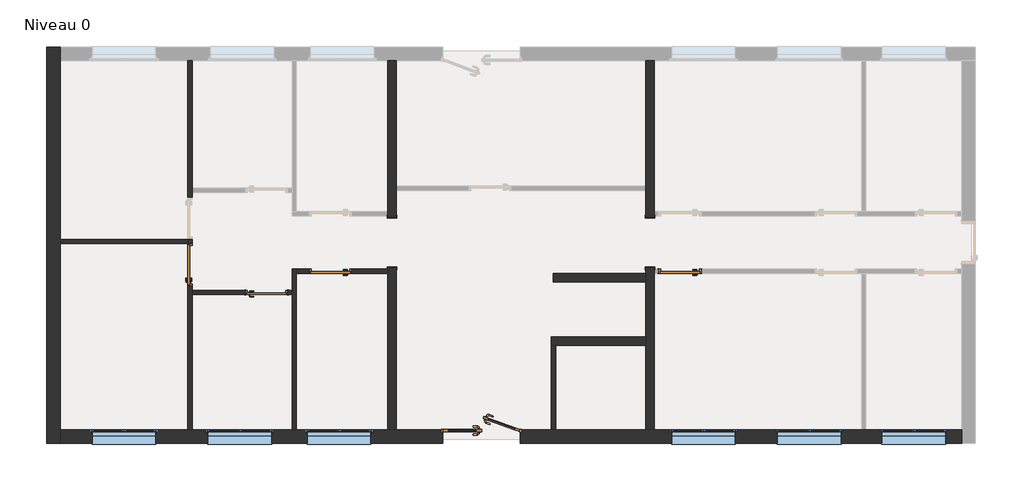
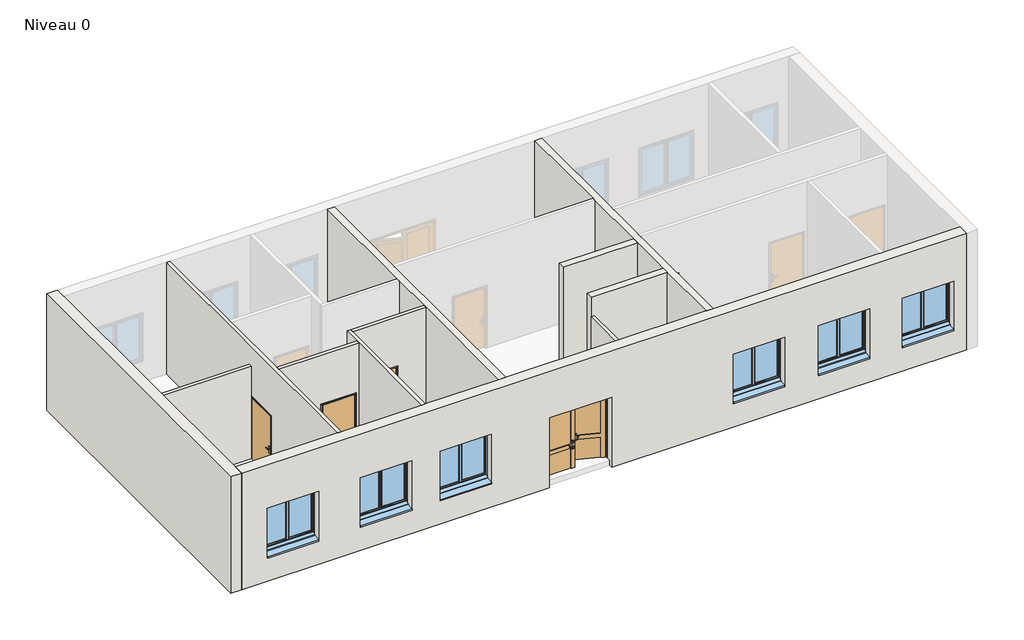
# One storey, part 1 of 2: 12 walls, 7 doors, 6 windows.
"""IFC4 building model written with IfcOpenShell, lengths in millimetres."""

from ifc_helpers import new_model, si_unit, frame, origin, origin_with_axes, place, context, project, spatial, polyline, outline, extrude, faceted_brep, transform, mapped, element, save
from components import ext_double_4d125d60, int_simple_pp_0_93m_x_2_04m_4f2bf630, int_simple_pp_0_93m_x_2_04m_68d1b237, ouverture_en_rectangle_ouverture_en_rectangle_f633d446, window_4dd6e4df

model = new_model("IFC4")

# Units and contexts
model_context = context("Model", 3, world=origin())
ifc_project = project(units=[si_unit("LENGTHUNIT", "METRE", prefix="MILLI")], contexts=[model_context])

# Site, building, storey
site = spatial("IfcSite", under=ifc_project)
building = spatial("IfcBuilding", under=site)
storey = spatial("IfcBuildingStorey", under=building, Name="Niveau 0", Elevation=0.0)

# Doors
placement = place(None, origin())
ext_double_shape = ext_double_4d125d60(model_context)
element("IfcDoor", 1, ObjectType="Ext. Double : Vitrée avec traverse - 1.80 m x 2.15 m", at=placement, inside=storey, context=model_context, shape_type="MappedRepresentation", body=[
    mapped(ext_double_shape, transform((-4128.240701, -4965.3060551, 0.0), x_axis=(-1.0, 0.0, 0.0), y_axis=(0.0, -1.0, 0.0), z_axis=(0.0, 0.0, 1.0))),
])
int_simple_pp_0_93m_x_2_04m_shape = int_simple_pp_0_93m_x_2_04m_4f2bf630(model_context)
element("IfcDoor", 2, ObjectType="Int. Simple : PP (0.93m x 2.04m)", at=placement, inside=storey, context=model_context, shape_type="MappedRepresentation", body=[
    mapped(int_simple_pp_0_93m_x_2_04m_shape, transform((-9133.240701, -1575.3060551, 0.0), x_axis=(1.0, 0.0, 0.0), y_axis=(0.0, 1.0, 0.0), z_axis=(0.0, 0.0, 1.0))),
])
int_simple_pp_0_93m_x_2_04m_2_shape = int_simple_pp_0_93m_x_2_04m_68d1b237(model_context)
element("IfcDoor", 3, ObjectType="Int. Simple : PP (0.93m x 2.04m)", at=placement, inside=storey, context=model_context, shape_type="MappedRepresentation", body=[
    mapped(int_simple_pp_0_93m_x_2_04m_2_shape, transform((506.759299, -1075.3060551, 0.0), x_axis=(-1.0, 0.0, 0.0), y_axis=(0.0, -1.0, 0.0), z_axis=(0.0, 0.0, 1.0))),
])
element("IfcDoor", 4, ObjectType="Int. Simple : PP (0.93m x 2.04m)", at=placement, inside=storey, context=model_context, shape_type="MappedRepresentation", body=[
    mapped(int_simple_pp_0_93m_x_2_04m_2_shape, transform((-7703.240701, -1075.3060551, 0.0), x_axis=(-1.0, 0.0, 0.0), y_axis=(0.0, -1.0, 0.0), z_axis=(0.0, 0.0, 1.0))),
])
element("IfcDoor", 5, ObjectType="Int. Simple : PP (0.93m x 2.04m)", at=placement, inside=storey, context=model_context, shape_type="MappedRepresentation", body=[
    mapped(int_simple_pp_0_93m_x_2_04m_2_shape, transform((-10968.240701, -890.3060551, 0.0), x_axis=(0.0, 1.0, 0.0), y_axis=(-1.0, 0.0, 0.0), z_axis=(0.0, 0.0, 1.0))),
])
ouverture_en_rectangle_ouverture_en_rectangle_shape = ouverture_en_rectangle_ouverture_en_rectangle_f633d446(model_context)
element("IfcDoor", 6, ObjectType="Ouverture en rectangle : Ouverture en rectangle", at=placement, inside=storey, context=model_context, shape_type="MappedRepresentation", body=[
    mapped(ouverture_en_rectangle_ouverture_en_rectangle_shape, transform((-6218.240701, -400.3060551, 0.0), x_axis=(0.0, -1.0, 0.0), y_axis=(1.0, 0.0, 0.0), z_axis=(0.0, 0.0, 1.0))),
])
element("IfcDoor", 7, ObjectType="Ouverture en rectangle : Ouverture en rectangle", at=placement, inside=storey, context=model_context, shape_type="MappedRepresentation", body=[
    mapped(ouverture_en_rectangle_ouverture_en_rectangle_shape, transform((-158.240701, -400.3060551, 0.0), x_axis=(0.0, -1.0, 0.0), y_axis=(1.0, 0.0, 0.0), z_axis=(0.0, 0.0, 1.0))),
])

# Walls
element("IfcWall", 8, ObjectType="Int. plâtre 100 mm", at=placement, inside=storey, context=model_context, shape_type="Brep", body=[
    faceted_brep([(-10918.240701, 3874.6939449, 3600.0), (-10918.240701, 874.6939449, 3600.0), (-10918.240701, 774.6939449, 3600.0), (-10918.240701, -1525.3060551, 3600.0), (-10918.240701, -1625.3060551, 3600.0), (-10918.240701, -4805.3060551, 3600.0), (-10918.240701, -4805.3060551, 0.0), (-10918.240701, -1625.3060551, 0.0), (-10918.240701, -1525.3060551, 0.0), (-10918.240701, -1425.3060551, 0.0), (-10918.240701, -1425.3060551, 2075.0), (-10918.240701, -425.3060551, 2075.0), (-10918.240701, -425.3060551, 0.0), (-10918.240701, -325.3060551, 0.0), (-10918.240701, -325.3060551, 2075.0), (-10918.240701, 674.6939449, 2075.0), (-10918.240701, 674.6939449, 0.0), (-10918.240701, 774.6939449, 0.0), (-10918.240701, 874.6939449, 0.0), (-10918.240701, 3874.6939449, 0.0), (-11018.240701, -4805.3060551, 3600.0), (-11018.240701, 3874.6939449, 3600.0), (-11018.240701, 3874.6939449, 0.0), (-11018.240701, 674.6939449, 0.0), (-11018.240701, 674.6939449, 2075.0), (-11018.240701, -325.3060551, 2075.0), (-11018.240701, -325.3060551, 0.0), (-11018.240701, -425.3060551, 0.0), (-11018.240701, -425.3060551, 2075.0), (-11018.240701, -1425.3060551, 2075.0), (-11018.240701, -1425.3060551, 0.0), (-11018.240701, -4805.3060551, 0.0)], [[[0, 1, 2, 3, 4, 5, 6, 7, 8, 9, 10, 11, 12, 13, 14, 15, 16, 17, 18, 19]], [[20, 21, 22, 23, 24, 25, 26, 27, 28, 29, 30, 31]], [[6, 31, 30, 9, 8, 7]], [[22, 19, 18, 17, 16, 23]], [[12, 27, 26, 13]], [[5, 4, 3, 2, 1, 0, 21, 20]], [[0, 19, 22, 21]], [[6, 5, 20, 31]], [[11, 28, 27, 12]], [[28, 11, 10, 29]], [[29, 10, 9, 30]], [[25, 14, 13, 26]], [[14, 25, 24, 15]], [[15, 24, 23, 16]]]),
])
element("IfcWall", 9, ObjectType="Int. plâtre 100 mm", at=placement, inside=storey, context=model_context, shape_type="Brep", body=[
    faceted_brep([(-8468.240701, -4805.3060551, 0.0), (-8468.240701, -1125.3060551, 0.0), (-8468.240701, -1025.3060551, 0.0), (-8468.240701, -1025.3060551, 3600.0), (-8468.240701, -1125.3060551, 3600.0), (-8468.240701, -4805.3060551, 3600.0), (-8568.240701, -4805.3060551, 0.0), (-8568.240701, -4805.3060551, 3600.0), (-8568.240701, -1625.3060551, 3600.0), (-8568.240701, -1525.3060551, 3600.0), (-8568.240701, -1025.3060551, 3600.0), (-8568.240701, -1025.3060551, 0.0), (-8568.240701, -1525.3060551, 0.0), (-8568.240701, -1625.3060551, 0.0)], [[[0, 1, 2, 3, 4, 5]], [[6, 7, 8, 9, 10, 11, 12, 13]], [[2, 1, 0, 6, 13, 12, 11]], [[5, 4, 3, 10, 9, 8, 7]], [[0, 5, 7, 6]], [[3, 2, 11, 10]]]),
])
element("IfcWall", 10, ObjectType="Int. plâtre 100 mm", at=placement, inside=storey, context=model_context, shape_type="SweptSolid", body=[
    extrude(outline(polyline([(3600.0, -6318.240701), (3600.0, -8468.240701), (0.0, -8468.240701), (0.0, -8168.240701), (2075.0, -8168.240701), (2075.0, -7168.240701), (0.0, -7168.240701), (0.0, -6318.240701), (3600.0, -6318.240701)])), frame((0.0, -1125.3060551, 0.0), z_axis=(0.0, 1.0, 0.0), x_axis=(0.0, 0.0, 1.0)), (0.0, 0.0, 1.0), 100.0),
])
element("IfcWall", 11, ObjectType="Int. plâtre 100 mm", at=placement, inside=storey, context=model_context, shape_type="SweptSolid", body=[
    extrude(outline(polyline([(3600.0, -8568.240701), (3600.0, -10918.240701), (0.0, -10918.240701), (0.0, -9668.240701), (2075.0, -9668.240701), (2075.0, -8668.240701), (0.0, -8668.240701), (0.0, -8568.240701), (3600.0, -8568.240701)])), frame((0.0, -1625.3060551, 0.0), z_axis=(0.0, 1.0, 0.0), x_axis=(0.0, 0.0, 1.0)), (0.0, 0.0, 1.0), 100.0),
])
element("IfcWall", 12, ObjectType="Int. plâtre 100 mm", at=placement, inside=storey, context=model_context, shape_type="Brep", body=[
    faceted_brep([(-11018.240701, -325.3060551, 0.0), (-14018.240701, -325.3060551, 0.0), (-14018.240701, -325.3060551, 3000.0), (-11018.240701, -325.3060551, 3000.0), (-11018.240701, -325.3060551, 2075.0), (-11018.240701, -425.3060551, 0.0), (-11018.240701, -425.3060551, 2075.0), (-11018.240701, -425.3060551, 3000.0), (-14018.240701, -425.3060551, 3000.0), (-14018.240701, -425.3060551, 0.0)], [[[0, 1, 2, 3, 4]], [[5, 6, 7, 8, 9]], [[1, 0, 5, 9]], [[3, 2, 8, 7]], [[2, 1, 9, 8]], [[0, 4, 3, 7, 6, 5]]]),
])
element("IfcWall", 13, ObjectType="Int. plâtre 100 mm", at=placement, inside=storey, context=model_context, shape_type="SweptSolid", body=[
    extrude(outline(polyline([(-2480.4682755, -4805.3060551), (-2480.4682755, -2825.3060551), (-2380.4682755, -2825.3060551), (-2380.4682755, -4805.3060551), (-2480.4682755, -4805.3060551)])), origin_with_axes(), (0.0, 0.0, 1.0), 3000.0),
])
element("IfcWall", 14, ObjectType="Ext. Voile BA 20", at=placement, inside=storey, context=model_context, shape_type="Brep", body=[
    faceted_brep([(-6318.240701, -4805.3060551, 3600.0), (-6318.240701, -1125.3060551, 3600.0), (-6318.240701, -1025.3060551, 3600.0), (-6318.240701, 224.6939449, 3600.0), (-6318.240701, 324.6939449, 3600.0), (-6318.240701, 3874.6939449, 3600.0), (-6318.240701, 3874.6939449, 0.0), (-6318.240701, 324.6939449, 0.0), (-6318.240701, 224.6939449, 0.0), (-6318.240701, 199.6939449, 0.0), (-6318.240701, 199.6939449, 2100.0), (-6318.240701, -1000.3060551, 2100.0), (-6318.240701, -1000.3060551, 0.0), (-6318.240701, -1025.3060551, 0.0), (-6318.240701, -1125.3060551, 0.0), (-6318.240701, -4805.3060551, 0.0), (-6118.240701, 3874.6939449, 3600.0), (-6118.240701, 924.6939449, 3600.0), (-6118.240701, 824.6939449, 3600.0), (-6118.240701, -4805.3060551, 3600.0), (-6118.240701, -4805.3060551, 0.0), (-6118.240701, -1000.3060551, 0.0), (-6118.240701, -1000.3060551, 2100.0), (-6118.240701, 199.6939449, 2100.0), (-6118.240701, 199.6939449, 0.0), (-6118.240701, 824.6939449, 0.0), (-6118.240701, 924.6939449, 0.0), (-6118.240701, 3874.6939449, 0.0)], [[[0, 1, 2, 3, 4, 5, 6, 7, 8, 9, 10, 11, 12, 13, 14, 15]], [[16, 17, 18, 19, 20, 21, 22, 23, 24, 25, 26, 27]], [[6, 27, 26, 25, 24, 9, 8, 7]], [[20, 15, 14, 13, 12, 21]], [[5, 4, 3, 2, 1, 0, 19, 18, 17, 16]], [[6, 5, 16, 27]], [[0, 15, 20, 19]], [[11, 22, 21, 12]], [[22, 11, 10, 23]], [[23, 10, 9, 24]]]),
])
element("IfcWall", 15, ObjectType="Ext. Voile BA 20", at=placement, inside=storey, context=model_context, shape_type="Brep", body=[
    faceted_brep([(-258.240701, -4805.3060551, 3600.0), (-258.240701, -2825.3060551, 3600.0), (-258.240701, -2625.3060551, 3600.0), (-258.240701, -1329.6604406, 3600.0), (-258.240701, -1129.6604406, 3600.0), (-258.240701, 824.6939449, 3600.0), (-258.240701, 924.6939449, 3600.0), (-258.240701, 3874.6939449, 3600.0), (-258.240701, 3874.6939449, 0.0), (-258.240701, 924.6939449, 0.0), (-258.240701, 824.6939449, 0.0), (-258.240701, 199.6939449, 0.0), (-258.240701, 199.6939449, 2100.0), (-258.240701, -1000.3060551, 2100.0), (-258.240701, -1000.3060551, 0.0), (-258.240701, -1129.6604406, 0.0), (-258.240701, -1329.6604406, 0.0), (-258.240701, -2625.3060551, 0.0), (-258.240701, -2825.3060551, 0.0), (-258.240701, -4805.3060551, 0.0), (-58.240701, 3874.6939449, 3600.0), (-58.240701, 324.6939449, 3600.0), (-58.240701, 224.6939449, 3600.0), (-58.240701, -1025.3060551, 3600.0), (-58.240701, -1125.3060551, 3600.0), (-58.240701, -4805.3060551, 3600.0), (-58.240701, -4805.3060551, 0.0), (-58.240701, -1000.3060551, 0.0), (-58.240701, -1000.3060551, 2100.0), (-58.240701, 199.6939449, 2100.0), (-58.240701, 199.6939449, 0.0), (-58.240701, 224.6939449, 0.0), (-58.240701, 324.6939449, 0.0), (-58.240701, 3874.6939449, 0.0)], [[[0, 1, 2, 3, 4, 5, 6, 7, 8, 9, 10, 11, 12, 13, 14, 15, 16, 17, 18, 19]], [[20, 21, 22, 23, 24, 25, 26, 27, 28, 29, 30, 31, 32, 33]], [[8, 33, 32, 31, 30, 11, 10, 9]], [[26, 19, 18, 17, 16, 15, 14, 27]], [[7, 6, 5, 4, 3, 2, 1, 0, 25, 24, 23, 22, 21, 20]], [[8, 7, 20, 33]], [[0, 19, 26, 25]], [[13, 28, 27, 14]], [[28, 13, 12, 29]], [[29, 12, 11, 30]]]),
])
element("IfcWall", 16, ObjectType="Ext. Voile BA 20", at=placement, inside=storey, context=model_context, shape_type="SweptSolid", body=[
    extrude(outline(polyline([(-258.240701, -1329.6604406), (-2430.4682755, -1329.6604406), (-2430.4682755, -1129.6604406), (-258.240701, -1129.6604406), (-258.240701, -1329.6604406)])), origin_with_axes(), (0.0, 0.0, 1.0), 3600.0),
])
element("IfcWall", 17, ObjectType="Ext. Voile BA 20", at=placement, inside=storey, context=model_context, shape_type="Brep", body=[
    faceted_brep([(-2480.4682755, -2825.3060551, 0.0), (-2380.4682755, -2825.3060551, 0.0), (-258.240701, -2825.3060551, 0.0), (-258.240701, -2825.3060551, 3600.0), (-2480.4682755, -2825.3060551, 3600.0), (-2480.4682755, -2825.3060551, 3000.0), (-2480.4682755, -2625.3060551, 0.0), (-2480.4682755, -2625.3060551, 3600.0), (-258.240701, -2625.3060551, 3600.0), (-258.240701, -2625.3060551, 0.0)], [[[0, 1, 2, 3, 4, 5]], [[6, 7, 8, 9]], [[2, 1, 0, 6, 9]], [[4, 3, 8, 7]], [[3, 2, 9, 8]], [[0, 5, 4, 7, 6]]]),
])
element("IfcWall", 18, ObjectType="Ext. Voile BA 20 + Isolant 10", at=placement, inside=storey, context=model_context, shape_type="Brep", body=[
    faceted_brep([(-14018.240701, -5125.3060551, 0.0), (-14018.240701, -4805.3060551, 0.0), (-14018.240701, -425.3060551, 0.0), (-14018.240701, -325.3060551, 0.0), (-14018.240701, 3874.6939449, 0.0), (-14018.240701, 4194.6939449, 0.0), (-14018.240701, 4194.6939449, 3600.0), (-14018.240701, 3874.6939449, 3600.0), (-14018.240701, -4805.3060551, 3600.0), (-14018.240701, -5125.3060551, 3600.0), (-14338.240701, -5125.3060551, 0.0), (-14338.240701, -5125.3060551, 3600.0), (-14338.240701, 4194.6939449, 3600.0), (-14338.240701, 4194.6939449, 0.0)], [[[0, 1, 2, 3, 4, 5, 6, 7, 8, 9]], [[10, 11, 12, 13]], [[5, 4, 3, 2, 1, 0, 10, 13]], [[9, 8, 7, 6, 12, 11]], [[6, 5, 13, 12]], [[0, 9, 11, 10]]]),
])
element("IfcWall", 19, ObjectType="Ext. Voile BA 20 + Isolant 10", at=placement, inside=storey, context=model_context, shape_type="Brep", body=[
    faceted_brep([(-14018.240701, -4805.3060551, 3600.0), (-11018.240701, -4805.3060551, 3600.0), (-10918.240701, -4805.3060551, 3600.0), (-8568.240701, -4805.3060551, 3600.0), (-8468.240701, -4805.3060551, 3600.0), (-6318.240701, -4805.3060551, 3600.0), (-6118.240701, -4805.3060551, 3600.0), (-258.240701, -4805.3060551, 3600.0), (-58.240701, -4805.3060551, 3600.0), (4811.759299, -4805.3060551, 3600.0), (4911.759299, -4805.3060551, 3600.0), (7161.759299, -4805.3060551, 3600.0), (7161.759299, -4805.3060551, 0.0), (4911.759299, -4805.3060551, 0.0), (4811.759299, -4805.3060551, 0.0), (-58.240701, -4805.3060551, 0.0), (-258.240701, -4805.3060551, 0.0), (-2380.4682755, -4805.3060551, 0.0), (-2480.4682755, -4805.3060551, 0.0), (-3168.240701, -4805.3060551, 0.0), (-3168.240701, -4805.3060551, 2200.0), (-5068.240701, -4805.3060551, 2200.0), (-5068.240701, -4805.3060551, 0.0), (-6118.240701, -4805.3060551, 0.0), (-6318.240701, -4805.3060551, 0.0), (-8468.240701, -4805.3060551, 0.0), (-8568.240701, -4805.3060551, 0.0), (-10918.240701, -4805.3060551, 0.0), (-11018.240701, -4805.3060551, 0.0), (-14018.240701, -4805.3060551, 0.0), (-10598.240701, -4805.3060551, 800.0), (-8998.240701, -4805.3060551, 800.0), (-8998.240701, -4805.3060551, 2300.0), (-10598.240701, -4805.3060551, 2300.0), (-8268.240701, -4805.3060551, 800.0), (-6668.240701, -4805.3060551, 800.0), (-6668.240701, -4805.3060551, 2300.0), (-8268.240701, -4805.3060551, 2300.0), (-13318.240701, -4805.3060551, 800.0), (-11718.240701, -4805.3060551, 800.0), (-11718.240701, -4805.3060551, 2300.0), (-13318.240701, -4805.3060551, 2300.0), (5236.759299, -4805.3060551, 800.0), (6836.759299, -4805.3060551, 800.0), (6836.759299, -4805.3060551, 2300.0), (5236.759299, -4805.3060551, 2300.0), (2781.759299, -4805.3060551, 800.0), (4381.759299, -4805.3060551, 800.0), (4381.759299, -4805.3060551, 2300.0), (2781.759299, -4805.3060551, 2300.0), (296.759299, -4805.3060551, 800.0), (1896.759299, -4805.3060551, 800.0), (1896.759299, -4805.3060551, 2300.0), (296.759299, -4805.3060551, 2300.0), (7161.759299, -5125.3060551, 3600.0), (-14018.240701, -5125.3060551, 3600.0), (-14018.240701, -5125.3060551, 0.0), (-5028.240701, -5125.3060551, 0.0), (-5028.240701, -5125.3060551, 2160.0), (-3208.240701, -5125.3060551, 2160.0), (-3208.240701, -5125.3060551, 0.0), (7161.759299, -5125.3060551, 0.0), (-9048.240701, -5125.3060551, 2250.0), (-9048.240701, -5125.3060551, 720.0), (-10548.240701, -5125.3060551, 720.0), (-10548.240701, -5125.3060551, 2250.0), (-6718.240701, -5125.3060551, 2250.0), (-6718.240701, -5125.3060551, 720.0), (-8218.240701, -5125.3060551, 720.0), (-8218.240701, -5125.3060551, 2250.0), (-11768.240701, -5125.3060551, 2250.0), (-11768.240701, -5125.3060551, 720.0), (-13268.240701, -5125.3060551, 720.0), (-13268.240701, -5125.3060551, 2250.0), (6786.759299, -5125.3060551, 2250.0), (6786.759299, -5125.3060551, 720.0), (5286.759299, -5125.3060551, 720.0), (5286.759299, -5125.3060551, 2250.0), (4331.759299, -5125.3060551, 2250.0), (4331.759299, -5125.3060551, 720.0), (2831.759299, -5125.3060551, 720.0), (2831.759299, -5125.3060551, 2250.0), (1846.759299, -5125.3060551, 2250.0), (1846.759299, -5125.3060551, 720.0), (346.759299, -5125.3060551, 720.0), (346.759299, -5125.3060551, 2250.0), (-3208.240701, -4905.3060551, 0.0), (-3198.240701, -4905.3060551, 0.0), (-3198.240701, -4855.3060551, 0.0), (-3168.240701, -4855.3060551, 0.0), (-5068.240701, -4855.3060551, 0.0), (-5038.240701, -4855.3060551, 0.0), (-5038.240701, -4905.3060551, 0.0), (-5028.240701, -4905.3060551, 0.0), (-5028.240701, -4905.3060551, 2160.0), (-3208.240701, -4905.3060551, 2160.0), (-3198.240701, -4855.3060551, 2170.0), (-5038.240701, -4855.3060551, 2170.0), (-5068.240701, -4855.3060551, 2200.0), (-3168.240701, -4855.3060551, 2200.0), (-3198.240701, -4905.3060551, 2170.0), (-5038.240701, -4905.3060551, 2170.0), (-9048.240701, -4885.3060551, 800.0), (-9048.240701, -4885.3060551, 720.0), (-9048.240701, -4905.3060551, 2250.0), (-9048.240701, -4905.3060551, 800.0), (-10548.240701, -4885.3060551, 720.0), (-10548.240701, -4885.3060551, 800.0), (-10548.240701, -4905.3060551, 800.0), (-10548.240701, -4905.3060551, 2250.0), (-9038.240701, -4905.3060551, 800.0), (-9038.240701, -4855.3060551, 800.0), (-8998.240701, -4855.3060551, 800.0), (-10598.240701, -4855.3060551, 800.0), (-10558.240701, -4855.3060551, 800.0), (-10558.240701, -4905.3060551, 800.0), (-8998.240701, -4855.3060551, 2300.0), (-9038.240701, -4855.3060551, 2260.0), (-10558.240701, -4855.3060551, 2260.0), (-10598.240701, -4855.3060551, 2300.0), (-9038.240701, -4905.3060551, 2260.0), (-10558.240701, -4905.3060551, 2260.0), (-6718.240701, -4885.3060551, 800.0), (-6718.240701, -4885.3060551, 720.0), (-6718.240701, -4905.3060551, 2250.0), (-6718.240701, -4905.3060551, 800.0), (-8218.240701, -4885.3060551, 720.0), (-8218.240701, -4885.3060551, 800.0), (-8218.240701, -4905.3060551, 800.0), (-8218.240701, -4905.3060551, 2250.0), (-6708.240701, -4905.3060551, 800.0), (-6708.240701, -4855.3060551, 800.0), (-6668.240701, -4855.3060551, 800.0), (-8268.240701, -4855.3060551, 800.0), (-8228.240701, -4855.3060551, 800.0), (-8228.240701, -4905.3060551, 800.0), (-6668.240701, -4855.3060551, 2300.0), (-6708.240701, -4855.3060551, 2260.0), (-8228.240701, -4855.3060551, 2260.0), (-8268.240701, -4855.3060551, 2300.0), (-6708.240701, -4905.3060551, 2260.0), (-8228.240701, -4905.3060551, 2260.0), (-11768.240701, -4885.3060551, 800.0), (-11768.240701, -4885.3060551, 720.0), (-11768.240701, -4905.3060551, 2250.0), (-11768.240701, -4905.3060551, 800.0), (-13268.240701, -4885.3060551, 720.0), (-13268.240701, -4885.3060551, 800.0), (-13268.240701, -4905.3060551, 800.0), (-13268.240701, -4905.3060551, 2250.0), (-11758.240701, -4905.3060551, 800.0), (-11758.240701, -4855.3060551, 800.0), (-11718.240701, -4855.3060551, 800.0), (-13318.240701, -4855.3060551, 800.0), (-13278.240701, -4855.3060551, 800.0), (-13278.240701, -4905.3060551, 800.0), (-11718.240701, -4855.3060551, 2300.0), (-11758.240701, -4855.3060551, 2260.0), (-13278.240701, -4855.3060551, 2260.0), (-13318.240701, -4855.3060551, 2300.0), (-11758.240701, -4905.3060551, 2260.0), (-13278.240701, -4905.3060551, 2260.0), (6786.759299, -4885.3060551, 800.0), (6786.759299, -4885.3060551, 720.0), (6786.759299, -4905.3060551, 2250.0), (6786.759299, -4905.3060551, 800.0), (5286.759299, -4885.3060551, 720.0), (5286.759299, -4885.3060551, 800.0), (5286.759299, -4905.3060551, 800.0), (5286.759299, -4905.3060551, 2250.0), (6796.759299, -4905.3060551, 800.0), (6796.759299, -4855.3060551, 800.0), (6836.759299, -4855.3060551, 800.0), (5236.759299, -4855.3060551, 800.0), (5276.759299, -4855.3060551, 800.0), (5276.759299, -4905.3060551, 800.0), (6836.759299, -4855.3060551, 2300.0), (6796.759299, -4855.3060551, 2260.0), (5276.759299, -4855.3060551, 2260.0), (5236.759299, -4855.3060551, 2300.0), (6796.759299, -4905.3060551, 2260.0), (5276.759299, -4905.3060551, 2260.0), (4331.759299, -4885.3060551, 800.0), (4331.759299, -4885.3060551, 720.0), (4331.759299, -4905.3060551, 2250.0), (4331.759299, -4905.3060551, 800.0), (2831.759299, -4885.3060551, 720.0), (2831.759299, -4885.3060551, 800.0), (2831.759299, -4905.3060551, 800.0), (2831.759299, -4905.3060551, 2250.0), (4341.759299, -4905.3060551, 800.0), (4341.759299, -4855.3060551, 800.0), (4381.759299, -4855.3060551, 800.0), (2781.759299, -4855.3060551, 800.0), (2821.759299, -4855.3060551, 800.0), (2821.759299, -4905.3060551, 800.0), (4381.759299, -4855.3060551, 2300.0), (4341.759299, -4855.3060551, 2260.0), (2821.759299, -4855.3060551, 2260.0), (2781.759299, -4855.3060551, 2300.0), (4341.759299, -4905.3060551, 2260.0), (2821.759299, -4905.3060551, 2260.0), (1846.759299, -4885.3060551, 800.0), (1846.759299, -4885.3060551, 720.0), (1846.759299, -4905.3060551, 2250.0), (1846.759299, -4905.3060551, 800.0), (346.759299, -4885.3060551, 720.0), (346.759299, -4885.3060551, 800.0), (346.759299, -4905.3060551, 800.0), (346.759299, -4905.3060551, 2250.0), (1856.759299, -4905.3060551, 800.0), (1856.759299, -4855.3060551, 800.0), (1896.759299, -4855.3060551, 800.0), (296.759299, -4855.3060551, 800.0), (336.759299, -4855.3060551, 800.0), (336.759299, -4905.3060551, 800.0), (1896.759299, -4855.3060551, 2300.0), (1856.759299, -4855.3060551, 2260.0), (336.759299, -4855.3060551, 2260.0), (296.759299, -4855.3060551, 2300.0), (1856.759299, -4905.3060551, 2260.0), (336.759299, -4905.3060551, 2260.0)], [[[0, 1, 2, 3, 4, 5, 6, 7, 8, 9, 10, 11, 12, 13, 14, 15, 16, 17, 18, 19, 20, 21, 22, 23, 24, 25, 26, 27, 28, 29], [30, 31, 32, 33], [34, 35, 36, 37], [38, 39, 40, 41], [42, 43, 44, 45], [46, 47, 48, 49], [50, 51, 52, 53]], [[54, 55, 56, 57, 58, 59, 60, 61], [62, 63, 64, 65], [66, 67, 68, 69], [70, 71, 72, 73], [74, 75, 76, 77], [78, 79, 80, 81], [82, 83, 84, 85]], [[12, 61, 60, 86, 87, 88, 89, 19, 18, 17, 16, 15, 14, 13]], [[56, 29, 28, 27, 26, 25, 24, 23, 22, 90, 91, 92, 93, 57]], [[11, 10, 9, 8, 7, 6, 5, 4, 3, 2, 1, 0, 55, 54]], [[0, 29, 56, 55]], [[12, 11, 54, 61]], [[94, 95, 59, 58]], [[93, 94, 58, 57]], [[95, 86, 60, 59]], [[88, 96, 97, 91, 90, 98, 99, 89]], [[96, 88, 87, 100]], [[95, 94, 93, 92, 101, 100, 87, 86]], [[89, 99, 20, 19]], [[97, 96, 100, 101]], [[99, 98, 21, 20]], [[91, 97, 101, 92]], [[98, 90, 22, 21]], [[102, 103, 63, 62, 104, 105]], [[106, 107, 108, 109, 65, 64]], [[103, 106, 64, 63]], [[103, 102, 107, 106]], [[62, 65, 109, 104]], [[107, 102, 105, 110, 111, 112, 31, 30, 113, 114, 115, 108]], [[31, 112, 116, 32]], [[112, 111, 117, 118, 114, 113, 119, 116]], [[111, 110, 120, 117]], [[110, 105, 104, 109, 108, 115, 121, 120]], [[32, 116, 119, 33]], [[118, 117, 120, 121]], [[119, 113, 30, 33]], [[114, 118, 121, 115]], [[122, 123, 67, 66, 124, 125]], [[126, 127, 128, 129, 69, 68]], [[123, 126, 68, 67]], [[123, 122, 127, 126]], [[66, 69, 129, 124]], [[127, 122, 125, 130, 131, 132, 35, 34, 133, 134, 135, 128]], [[35, 132, 136, 36]], [[132, 131, 137, 138, 134, 133, 139, 136]], [[131, 130, 140, 137]], [[130, 125, 124, 129, 128, 135, 141, 140]], [[36, 136, 139, 37]], [[138, 137, 140, 141]], [[139, 133, 34, 37]], [[134, 138, 141, 135]], [[142, 143, 71, 70, 144, 145]], [[146, 147, 148, 149, 73, 72]], [[143, 146, 72, 71]], [[143, 142, 147, 146]], [[70, 73, 149, 144]], [[147, 142, 145, 150, 151, 152, 39, 38, 153, 154, 155, 148]], [[39, 152, 156, 40]], [[152, 151, 157, 158, 154, 153, 159, 156]], [[151, 150, 160, 157]], [[150, 145, 144, 149, 148, 155, 161, 160]], [[40, 156, 159, 41]], [[158, 157, 160, 161]], [[159, 153, 38, 41]], [[154, 158, 161, 155]], [[162, 163, 75, 74, 164, 165]], [[166, 167, 168, 169, 77, 76]], [[163, 166, 76, 75]], [[163, 162, 167, 166]], [[74, 77, 169, 164]], [[167, 162, 165, 170, 171, 172, 43, 42, 173, 174, 175, 168]], [[43, 172, 176, 44]], [[172, 171, 177, 178, 174, 173, 179, 176]], [[171, 170, 180, 177]], [[170, 165, 164, 169, 168, 175, 181, 180]], [[44, 176, 179, 45]], [[178, 177, 180, 181]], [[179, 173, 42, 45]], [[174, 178, 181, 175]], [[182, 183, 79, 78, 184, 185]], [[186, 187, 188, 189, 81, 80]], [[183, 186, 80, 79]], [[183, 182, 187, 186]], [[78, 81, 189, 184]], [[187, 182, 185, 190, 191, 192, 47, 46, 193, 194, 195, 188]], [[47, 192, 196, 48]], [[192, 191, 197, 198, 194, 193, 199, 196]], [[191, 190, 200, 197]], [[190, 185, 184, 189, 188, 195, 201, 200]], [[48, 196, 199, 49]], [[198, 197, 200, 201]], [[199, 193, 46, 49]], [[194, 198, 201, 195]], [[202, 203, 83, 82, 204, 205]], [[206, 207, 208, 209, 85, 84]], [[203, 206, 84, 83]], [[203, 202, 207, 206]], [[82, 85, 209, 204]], [[207, 202, 205, 210, 211, 212, 51, 50, 213, 214, 215, 208]], [[51, 212, 216, 52]], [[212, 211, 217, 218, 214, 213, 219, 216]], [[211, 210, 220, 217]], [[210, 205, 204, 209, 208, 215, 221, 220]], [[52, 216, 219, 53]], [[218, 217, 220, 221]], [[219, 213, 50, 53]], [[214, 218, 221, 215]]]),
])

# Windows
window_shape = window_4dd6e4df(model_context)
element("IfcWindow", 20, ObjectType="2 Vantaux - Droits : 1.50m x 1.45m - Appui Béton", at=placement, inside=storey, context=model_context, shape_type="MappedRepresentation", body=[
    mapped(window_shape, transform((-9798.240701, -4965.3060551, 0.0), x_axis=(-1.0, 0.0, 0.0), y_axis=(0.0, -1.0, 0.0), z_axis=(0.0, 0.0, 1.0))),
])
element("IfcWindow", 21, ObjectType="2 Vantaux - Droits : 1.50m x 1.45m - Appui Béton", at=placement, inside=storey, context=model_context, shape_type="MappedRepresentation", body=[
    mapped(window_shape, transform((-7468.240701, -4965.3060551, 0.0), x_axis=(-1.0, 0.0, 0.0), y_axis=(0.0, -1.0, 0.0), z_axis=(0.0, 0.0, 1.0))),
])
element("IfcWindow", 22, ObjectType="2 Vantaux - Droits : 1.50m x 1.45m - Appui Béton", at=placement, inside=storey, context=model_context, shape_type="MappedRepresentation", body=[
    mapped(window_shape, transform((-12518.240701, -4965.3060551, 0.0), x_axis=(-1.0, 0.0, 0.0), y_axis=(0.0, -1.0, 0.0), z_axis=(0.0, 0.0, 1.0))),
])
element("IfcWindow", 23, ObjectType="2 Vantaux - Droits : 1.50m x 1.45m - Appui Béton", at=placement, inside=storey, context=model_context, shape_type="MappedRepresentation", body=[
    mapped(window_shape, transform((6036.759299, -4965.3060551, 0.0), x_axis=(-1.0, 0.0, 0.0), y_axis=(0.0, -1.0, 0.0), z_axis=(0.0, 0.0, 1.0))),
])
element("IfcWindow", 24, ObjectType="2 Vantaux - Droits : 1.50m x 1.45m - Appui Béton", at=placement, inside=storey, context=model_context, shape_type="MappedRepresentation", body=[
    mapped(window_shape, transform((3581.759299, -4965.3060551, 0.0), x_axis=(-1.0, 0.0, 0.0), y_axis=(0.0, -1.0, 0.0), z_axis=(0.0, 0.0, 1.0))),
])
element("IfcWindow", 25, ObjectType="2 Vantaux - Droits : 1.50m x 1.45m - Appui Béton", at=placement, inside=storey, context=model_context, shape_type="MappedRepresentation", body=[
    mapped(window_shape, transform((1096.759299, -4965.3060551, 0.0), x_axis=(-1.0, 0.0, 0.0), y_axis=(0.0, -1.0, 0.0), z_axis=(0.0, 0.0, 1.0))),
])

save(model, "model.ifc")
